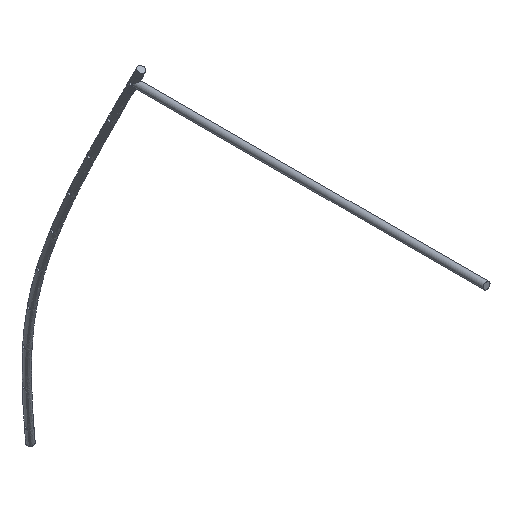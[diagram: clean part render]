
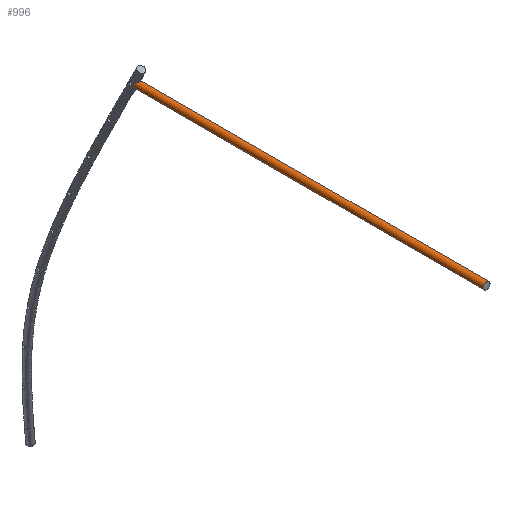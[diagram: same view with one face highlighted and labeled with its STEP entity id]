
A CAD part, isometric view. The second image highlights one B-rep face of the part: STEP entity #996.
In plain terms, the highlighted cylindrical face has radius 10.5 mm (diameter 21 mm), a full revolution.
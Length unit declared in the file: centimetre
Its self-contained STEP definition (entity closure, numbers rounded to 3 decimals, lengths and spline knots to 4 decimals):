
#573=B_SPLINE_CURVE_WITH_KNOTS('',3,(#2688,#2689,#2690,#2691),.UNSPECIFIED.,
.F.,.U.,(4,4),(2.407,2.4298),.UNSPECIFIED.);
#611=B_SPLINE_CURVE_WITH_KNOTS('',3,(#4204,#4205,#4206,#4207,#4208,#4209,
#4210,#4211,#4212,#4213,#4214,#4215,#4216,#4217,#4218,#4219,#4220,#4221,
#4222,#4223,#4224,#4225,#4226,#4227,#4228,#4229,#4230,#4231,#4232,#4233,
#4234,#4235,#4236,#4237,#4238,#4239,#4240,#4241,#4242,#4243,#4244,#4245,
#4246,#4247,#4248,#4249,#4250,#4251,#4252,#4253,#4254,#4255,#4256,#4257),
.UNSPECIFIED.,.T.,.U.,(4,2,2,2,2,2,2,2,2,2,2,2,2,2,2,2,2,2,2,2,2,2,2,2,2,
2,4),(0.,0.2857,0.5714,1.1427,1.4168,
1.6908,1.8756,2.0605,2.2453,2.4301,
2.7042,2.9782,3.5496,3.8353,4.1209,
4.292,4.4631,4.6756,4.888,5.3151,
5.7422,6.1692,6.5963,6.8087,7.0212,
7.1923,7.3634),.UNSPECIFIED.);
#617=VERTEX_POINT('',#2692);
#618=VERTEX_POINT('',#2693);
#663=VERTEX_POINT('',#4259);
#671=EDGE_CURVE('',#617,#618,#573,.T.);
#733=EDGE_CURVE('',#617,#618,#611,.T.);
#734=EDGE_CURVE('',#663,#663,#1716,.T.);
#857=ORIENTED_EDGE('',*,*,#671,.T.);
#858=ORIENTED_EDGE('',*,*,#733,.F.);
#859=ORIENTED_EDGE('',*,*,#734,.T.);
#926=EDGE_LOOP('',(#857,#858));
#927=EDGE_LOOP('',(#859));
#971=FACE_BOUND('',#926,.T.);
#972=FACE_BOUND('',#927,.T.);
#996=ADVANCED_FACE('',(#971,#972),#1029,.T.);
#1029=CYLINDRICAL_SURFACE('',#2254,1.05);
#1716=CIRCLE('',#2255,1.05);
#2254=AXIS2_PLACEMENT_3D('',#4203,#4406,#4407);
#2255=AXIS2_PLACEMENT_3D('',#4258,#4408,#4409);
#2688=CARTESIAN_POINT('',(8.9356,108.5137,2.407));
#2689=CARTESIAN_POINT('',(8.9363,108.5154,2.3993));
#2690=CARTESIAN_POINT('',(8.937,108.5173,2.3916));
#2691=CARTESIAN_POINT('',(8.9379,108.5193,2.384));
#2692=CARTESIAN_POINT('',(8.9356,108.5137,2.407));
#2693=CARTESIAN_POINT('',(8.9379,108.5193,2.384));
#4203=CARTESIAN_POINT('',(9.9815,0.,2.5));
#4204=CARTESIAN_POINT('',(8.9315,108.4756,2.5068));
#4205=CARTESIAN_POINT('',(8.932,108.433,2.592));
#4206=CARTESIAN_POINT('',(8.942,108.3727,2.6637));
#4207=CARTESIAN_POINT('',(8.9725,108.2396,2.799));
#4208=CARTESIAN_POINT('',(8.9936,108.1661,2.8619));
#4209=CARTESIAN_POINT('',(9.0733,107.94,3.0434));
#4210=CARTESIAN_POINT('',(9.1491,107.7828,3.1537));
#4211=CARTESIAN_POINT('',(9.2893,107.5814,3.2922));
#4212=CARTESIAN_POINT('',(9.3452,107.5123,3.3388));
#4213=CARTESIAN_POINT('',(9.474,107.3867,3.4224));
#4214=CARTESIAN_POINT('',(9.5471,107.3304,3.4594));
#4215=CARTESIAN_POINT('',(9.6745,107.2594,3.5056));
#4216=CARTESIAN_POINT('',(9.7344,107.2332,3.5225));
#4217=CARTESIAN_POINT('',(9.8604,107.1978,3.545));
#4218=CARTESIAN_POINT('',(9.9267,107.1889,3.5504));
#4219=CARTESIAN_POINT('',(10.0499,107.1889,3.5496));
#4220=CARTESIAN_POINT('',(10.1161,107.1978,3.5433));
#4221=CARTESIAN_POINT('',(10.2419,107.2332,3.5192));
#4222=CARTESIAN_POINT('',(10.3015,107.2594,3.5015));
#4223=CARTESIAN_POINT('',(10.4283,107.3304,3.4536));
#4224=CARTESIAN_POINT('',(10.5009,107.3867,3.4157));
#4225=CARTESIAN_POINT('',(10.6286,107.5123,3.3304));
#4226=CARTESIAN_POINT('',(10.6839,107.5814,3.2831));
#4227=CARTESIAN_POINT('',(10.8223,107.7828,3.1428));
#4228=CARTESIAN_POINT('',(10.8966,107.94,3.0315));
#4229=CARTESIAN_POINT('',(10.974,108.1661,2.849));
#4230=CARTESIAN_POINT('',(10.9942,108.2396,2.7858));
#4231=CARTESIAN_POINT('',(11.023,108.3727,2.6501));
#4232=CARTESIAN_POINT('',(11.032,108.433,2.5783));
#4233=CARTESIAN_POINT('',(11.0311,108.5011,2.4422));
#4234=CARTESIAN_POINT('',(11.0267,108.52,2.3832));
#4235=CARTESIAN_POINT('',(11.0063,108.5343,2.2638));
#4236=CARTESIAN_POINT('',(10.9903,108.5303,2.2034));
#4237=CARTESIAN_POINT('',(10.9482,108.5112,2.0842));
#4238=CARTESIAN_POINT('',(10.9164,108.4919,2.0165));
#4239=CARTESIAN_POINT('',(10.8395,108.4483,1.8904));
#4240=CARTESIAN_POINT('',(10.7944,108.4242,1.832));
#4241=CARTESIAN_POINT('',(10.6556,108.3595,1.6837));
#4242=CARTESIAN_POINT('',(10.5357,108.3157,1.5962));
#4243=CARTESIAN_POINT('',(10.2664,108.2556,1.4788));
#4244=CARTESIAN_POINT('',(10.117,108.2394,1.4491));
#4245=CARTESIAN_POINT('',(9.8323,108.2394,1.451));
#4246=CARTESIAN_POINT('',(9.6832,108.2556,1.4826));
#4247=CARTESIAN_POINT('',(9.4155,108.3157,1.6035));
#4248=CARTESIAN_POINT('',(9.2967,108.3595,1.6925));
#4249=CARTESIAN_POINT('',(9.1599,108.4242,1.8427));
#4250=CARTESIAN_POINT('',(9.1155,108.4483,1.9016));
#4251=CARTESIAN_POINT('',(9.0403,108.4919,2.0287));
#4252=CARTESIAN_POINT('',(9.0094,108.5112,2.0969));
#4253=CARTESIAN_POINT('',(8.9689,108.5303,2.2166));
#4254=CARTESIAN_POINT('',(8.9536,108.5343,2.2772));
#4255=CARTESIAN_POINT('',(8.9348,108.52,2.3968));
#4256=CARTESIAN_POINT('',(8.9312,108.5011,2.4559));
#4257=CARTESIAN_POINT('',(8.9315,108.4756,2.5068));
#4258=CARTESIAN_POINT('',(9.9815,0.,2.5));
#4259=CARTESIAN_POINT('',(11.0315,0.,2.5));
#4406=DIRECTION('',(0.,1.,0.));
#4407=DIRECTION('',(1.05,0.,0.));
#4408=DIRECTION('',(0.,1.,0.));
#4409=DIRECTION('',(1.05,0.,0.));
